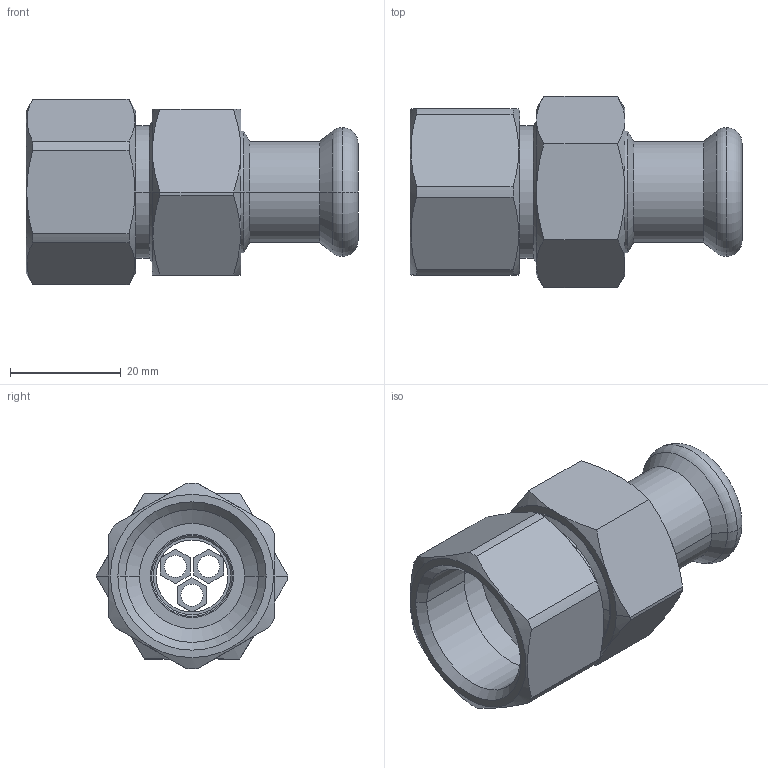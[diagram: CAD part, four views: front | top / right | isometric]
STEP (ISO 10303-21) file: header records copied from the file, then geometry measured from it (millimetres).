
FILE_DESCRIPTION(('OneSpaceDesigner STEP Export'),'2;1');
FILE_NAME('R2738 15xRp3-4.stp','2010-06-10T14:16:20',(''),(''),'OneSpace Designer STEP processor for AP214 (Solid Model)','OneSpace Modeling 15.00A 14-Mar-2007 (C) CoCreate Software GmbH','');
FILE_SCHEMA(('AUTOMOTIVE_DESIGN { 1 0 10303 214 1 1 1 1 }'));
Length unit declared in the file: millimetre
Products named in the file (2): R2738_15xRp3-4
Assembly tree (1 placements, depth 2):
  R2738_15xRp3-4
    R2738_15xRp3-4
Bounding box: 60 x 34.64 x 33.59 mm (x, y, z)
Volume: 17847.7 mm3; surface area: 12336.6 mm2
Topology: 1 solids, 1 shells, 154 faces, 354 edges, 214 vertices
Faces by surface type: plane 50, cone 48, cylinder 48, torus 8
Entity records: 5497 total; most frequent: CARTESIAN_POINT 2404, ORIENTED_EDGE 708, DIRECTION 516, EDGE_CURVE 354, VERTEX_POINT 214, AXIS2_PLACEMENT_3D 176, EDGE_LOOP 174, VECTOR 164
